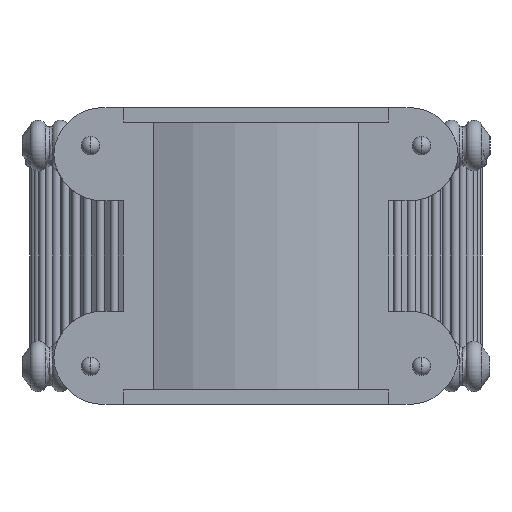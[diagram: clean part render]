
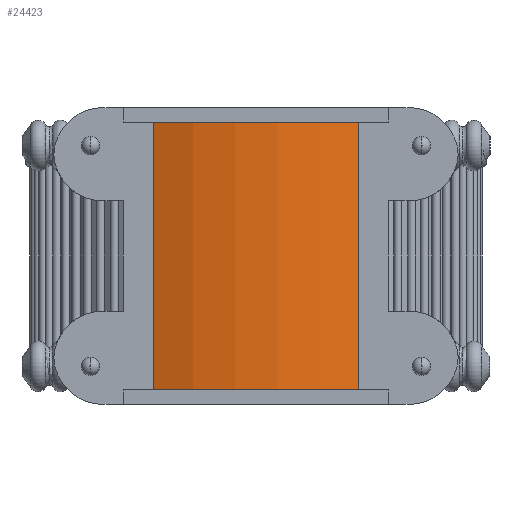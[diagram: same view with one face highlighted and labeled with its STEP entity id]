
A CAD part, front view. The second image highlights one B-rep face of the part: STEP entity #24423.
In plain terms, the highlighted cylindrical face has radius 17.615 mm (diameter 35.23 mm), a partial arc.
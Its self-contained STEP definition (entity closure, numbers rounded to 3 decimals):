
#254 = VECTOR ( 'NONE', #27093, 1000. ) ;
#402 = CARTESIAN_POINT ( 'NONE',  ( 0., 16.12, -9.25 ) ) ;
#887 = EDGE_LOOP ( 'NONE', ( #10141, #3346, #15297, #3442 ) ) ;
#1813 = DIRECTION ( 'NONE',  ( 0., 0., -1. ) ) ;
#2079 = AXIS2_PLACEMENT_3D ( 'NONE', #402, #34485, #34627 ) ;
#2931 = CARTESIAN_POINT ( 'NONE',  ( 7.102, 0., -9.25 ) ) ;
#3346 = ORIENTED_EDGE ( 'NONE', *, *, #15954, .T. ) ;
#3442 = ORIENTED_EDGE ( 'NONE', *, *, #28330, .T. ) ;
#5094 = CARTESIAN_POINT ( 'NONE',  ( 7.102, 0., 10.25 ) ) ;
#7715 = LINE ( 'NONE', #5094, #37054 ) ;
#9923 = DIRECTION ( 'NONE',  ( 0., 0., -1. ) ) ;
#10141 = ORIENTED_EDGE ( 'NONE', *, *, #27427, .T. ) ;
#11110 = CARTESIAN_POINT ( 'NONE',  ( -7.102, 0., -9.25 ) ) ;
#14978 = EDGE_CURVE ( 'NONE', #29236, #18703, #7715, .T. ) ;
#15297 = ORIENTED_EDGE ( 'NONE', *, *, #14978, .F. ) ;
#15954 = EDGE_CURVE ( 'NONE', #42416, #18703, #31646, .T. ) ;
#16089 = CARTESIAN_POINT ( 'NONE',  ( -7.102, 0., 10.25 ) ) ;
#16499 = CYLINDRICAL_SURFACE ( 'NONE', #30564, 17.615 ) ;
#18703 = VERTEX_POINT ( 'NONE', #2931 ) ;
#21677 = CARTESIAN_POINT ( 'NONE',  ( 7.102, 0., 9.25 ) ) ;
#23483 = CARTESIAN_POINT ( 'NONE',  ( 0., 16.12, 10.25 ) ) ;
#24423 = ADVANCED_FACE ( 'NONE', ( #27175 ), #16499, .T. ) ;
#27093 = DIRECTION ( 'NONE',  ( 0., 0., -1. ) ) ;
#27175 = FACE_OUTER_BOUND ( 'NONE', #887, .T. ) ;
#27427 = EDGE_CURVE ( 'NONE', #39811, #42416, #39710, .T. ) ;
#28330 = EDGE_CURVE ( 'NONE', #29236, #39811, #30056, .T. ) ;
#29236 = VERTEX_POINT ( 'NONE', #21677 ) ;
#30056 = CIRCLE ( 'NONE', #31280, 17.615 ) ;
#30208 = DIRECTION ( 'NONE',  ( -1., 0., 0. ) ) ;
#30564 = AXIS2_PLACEMENT_3D ( 'NONE', #23483, #9923, #30208 ) ;
#31280 = AXIS2_PLACEMENT_3D ( 'NONE', #40798, #36931, #33630 ) ;
#31646 = CIRCLE ( 'NONE', #2079, 17.615 ) ;
#33630 = DIRECTION ( 'NONE',  ( -1., 0., 0. ) ) ;
#34485 = DIRECTION ( 'NONE',  ( 0., 0., 1. ) ) ;
#34627 = DIRECTION ( 'NONE',  ( 1., 0., 0. ) ) ;
#36931 = DIRECTION ( 'NONE',  ( 0., 0., -1. ) ) ;
#37054 = VECTOR ( 'NONE', #1813, 1000. ) ;
#37253 = CARTESIAN_POINT ( 'NONE',  ( -7.102, 0., 9.25 ) ) ;
#39710 = LINE ( 'NONE', #16089, #254 ) ;
#39811 = VERTEX_POINT ( 'NONE', #37253 ) ;
#40798 = CARTESIAN_POINT ( 'NONE',  ( 0., 16.12, 9.25 ) ) ;
#42416 = VERTEX_POINT ( 'NONE', #11110 ) ;
